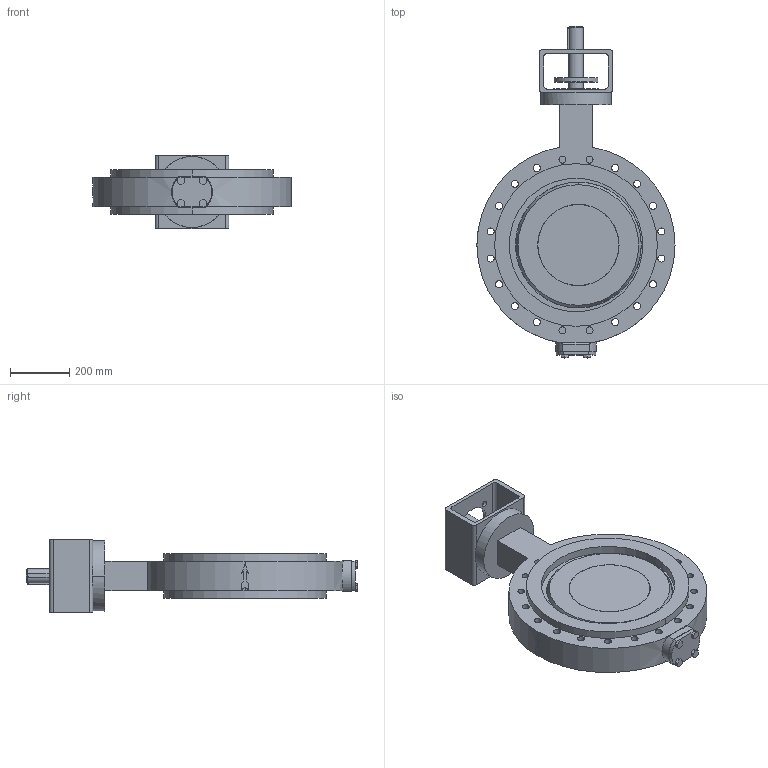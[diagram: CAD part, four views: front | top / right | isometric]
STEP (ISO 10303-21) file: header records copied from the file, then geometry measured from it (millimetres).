
FILE_DESCRIPTION( ( '' ), '1' );
FILE_NAME( 'F:/DE-SHS/TB/OR/04-Sonstiges/daten/files_3d/018_ZETRIX-PN10_freiesWellende/c000006365.stp', '2016-09-01T11:04:42', ( '' ), ( '' ), ' ', ' ', ' ' );
FILE_SCHEMA( ( 'CONFIG_CONTROL_DESIGN' ) );
Length unit declared in the file: millimetre
Products named in the file (1): 1
Bounding box: 670 x 1123.1 x 248 mm (x, y, z)
Volume: 40191826.3 mm3; surface area: 1998242.9 mm2
Topology: 1 solids, 1 shells, 261 faces, 688 edges, 451 vertices
Faces by surface type: cylinder 133, plane 120, cone 4, sphere 4
Entity records: 9218 total; most frequent: CARTESIAN_POINT 2397, DIRECTION 1468, ORIENTED_EDGE 1376, EDGE_CURVE 688, AXIS2_PLACEMENT_3D 554, VERTEX_POINT 451, LINE 360, VECTOR 360
